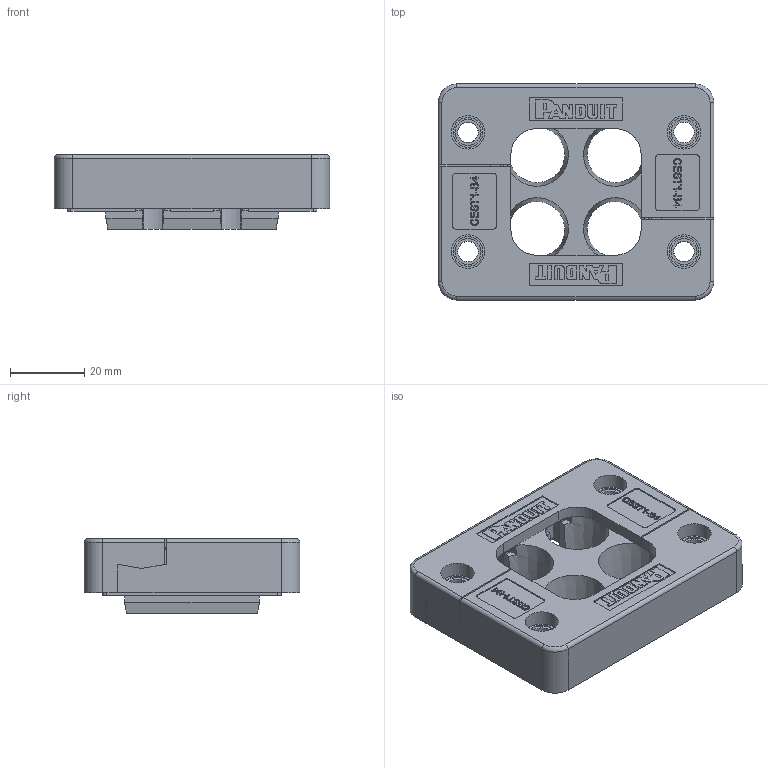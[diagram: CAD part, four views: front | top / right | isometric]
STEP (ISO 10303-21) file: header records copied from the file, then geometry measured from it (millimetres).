
FILE_DESCRIPTION(/* description */ (''),/* implementation_level */ '2;1');
FILE_NAME(/* name */ 'H:\SapWorkDir\Inventor\MP1\ConvertTempPath\87_11_121477_00_A_220620_KDL-C 6-4 ZSB.stp',/* time_stamp */ '2022-06-20T14:25:25+02:00',/* author */ ('BAUER'),/* organization */ (''),/* preprocessor_version */ 'ST-DEVELOPER v16.13',/* originating_system */ 'Autodesk Inventor 2018',/* authorisation */ '');
FILE_SCHEMA (('AP203_CONFIGURATION_CONTROLLED_3D_DESIGN_OF_MECHANICAL_PARTS_AND_ASSEMBLIES_MIM_LF { 1 0 10303 203 3 1 4 }','AUTOMOTIVE_DESIGN { 1 0 10303 214 3 1 1 }'));
Length unit declared in the file: millimetre
Products named in the file (3): 121477; 16-polig_Tüllenblock; 121424
Assembly tree (3 placements, depth 2):
  121477
    16-polig_Tüllenblock
    121424  x2
Bounding box: 74 x 58 x 20 mm (x, y, z)
Volume: 48464.7 mm3; surface area: 27098.6 mm2
Topology: 3 solids, 3 shells, 891 faces, 2391 edges, 1586 vertices
Faces by surface type: plane 606, cylinder 136, bspline 131, torus 12, cone 6
Full cylindrical faces by diameter (mm): 5 x4, 5.5 x10, 6 x2, 7 x4, 8 x4, 9 x4
Entity records: 18551 total; most frequent: CARTESIAN_POINT 4280, ORIENTED_EDGE 3082, DIRECTION 2627, EDGE_CURVE 1541, LINE 1139, VECTOR 1139, VERTEX_POINT 1029, AXIS2_PLACEMENT_3D 744
